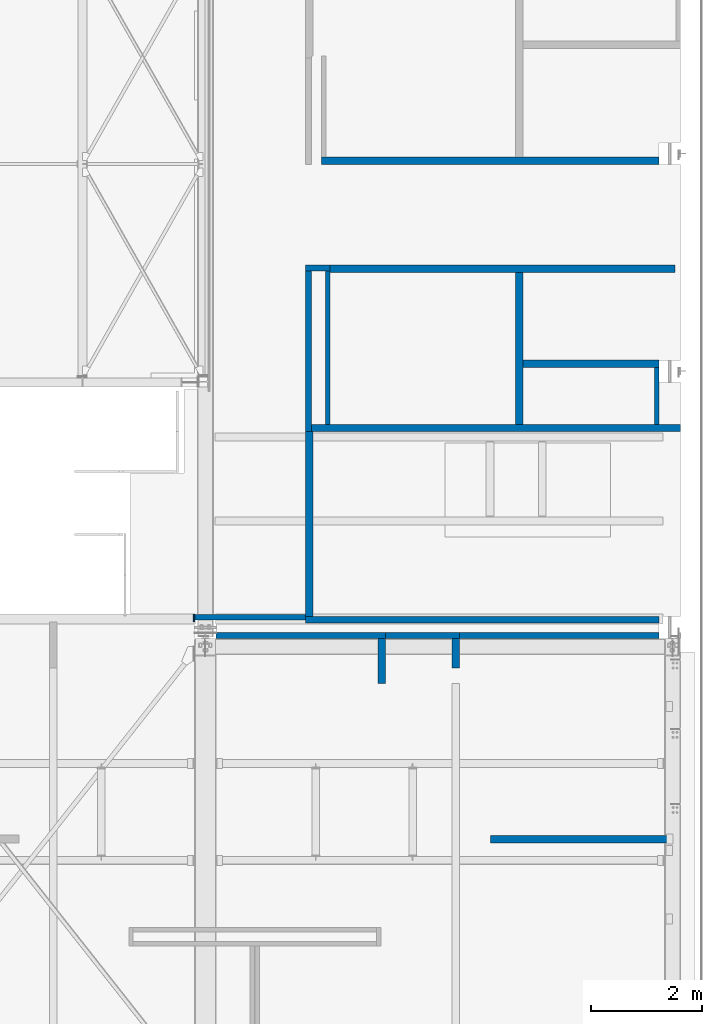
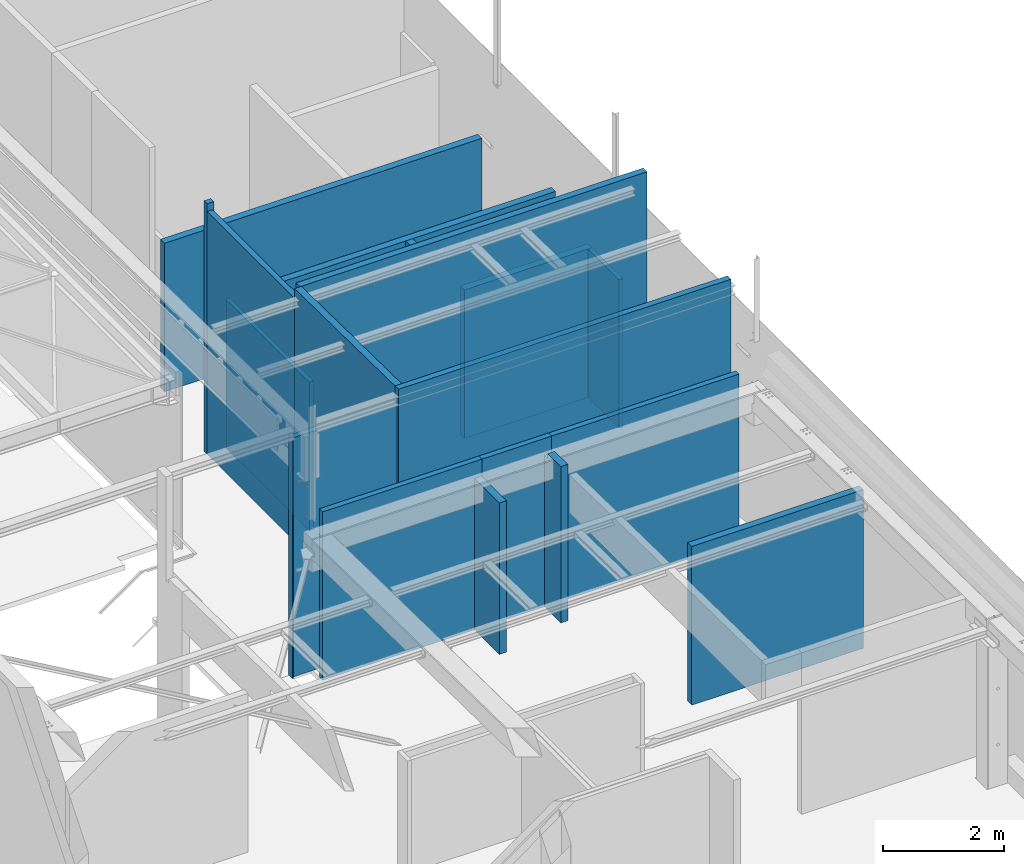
# One storey, part 121 of 186: 19 walls.
"""IFC4X3_ADD2 building model written with IfcOpenShell, lengths in millimetres."""

from ifc_helpers import new_model, si_unit, direction, frame, frame_2d, origin_with_axes, place, context, subcontext, project, spatial, polyline, rectangle, outline, extrude, clip, bounded_halfspace, material, layer, layer_set, type_object, element, save


model = new_model("IFC4X3_ADD2")

# Units and contexts
model_context = context("Model", 3, precision=1e-05, world=origin_with_axes(), true_north=direction((0.0, 1.0)))
body_context = subcontext(model_context, "Body", "Model", "MODEL_VIEW")
ifc_project = project(units=[si_unit("LENGTHUNIT", "METRE", prefix="MILLI"), si_unit("AREAUNIT", "SQUARE_METRE"), si_unit("VOLUMEUNIT", "CUBIC_METRE"), si_unit("PLANEANGLEUNIT", "RADIAN"), si_unit("TIMEUNIT", "SECOND"), si_unit("MASSUNIT", "GRAM")], contexts=[model_context])

# Site, building, storey
site_placement = place(None, origin_with_axes())
site = spatial("IfcSite", under=ifc_project, at=site_placement, Name="Site", CompositionType="ELEMENT")
building_placement = place(site_placement, origin_with_axes())
building = spatial("IfcBuilding", under=site, at=building_placement, Name="IFC Building Story")
storey_placement = place(building_placement, frame((0.0, 0.0, 4370.0), z_axis=(0.0, 0.0, 1.0), x_axis=(1.0, 0.0, 0.0)))
storey = spatial("IfcBuildingStorey", under=building, at=storey_placement, Name="ETAGE 10 (1)", Elevation=4370.0)

# Walls
ifc_material_1 = material(Name="BS_42_Revêtement mural en plaques - type A (gyproc)")
ifc_layer_1 = layer(ifc_material_1, 12.5)
ifc_material_2 = material(Name="BS_42_Panneau OSB")
ifc_layer_2 = layer(ifc_material_2, 18.0)
ifc_material_3 = material(Name="BS_42_ContreCloison-Laine minérale")
ifc_layer_3 = layer(ifc_material_3, 75.0)
ifc_layer_4 = layer(ifc_material_2, 18.0)
ifc_layer_5 = layer(ifc_material_1, 12.5)
ifc_layer_set_1 = layer_set([ifc_layer_1, ifc_layer_2, ifc_layer_3, ifc_layer_4, ifc_layer_5], Name="Mur de base:BS_22_WA_C1")
wall_type_1 = type_object("IfcWallType", Name="Mur de base:BS_22_WA_C1 136", PredefinedType="NOTDEFINED", material=ifc_layer_set_1)
wall_1_placement = place(storey_placement, origin_with_axes())
element("IfcWall", 1, at=wall_1_placement, inside=storey, type_object=wall_type_1, Name="Mur de base:BS_22_WA_C1", ObjectType="Mur de base:BS_22_WA_C1", context=body_context, shape_type="Clipping", body=[
    clip(clip(extrude(outline(polyline([(68.0, 268.7286208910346), (68.0, -268.7286208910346), (-68.0, -268.7286208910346), (-68.0, 268.7286208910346), (68.0, 268.7286208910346)])), frame((44468.2827255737, -268.7286208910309, 0.0), z_axis=(0.0, 0.0, 1.0), x_axis=(1.0, 0.0, 0.0)), (0.0, 0.0, 1.0), 3156.546894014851), bounded_halfspace(frame((0.0, 0.0, 3060.0), z_axis=(0.0, 0.0, 1.0), x_axis=(1.0, 0.0, 0.0)), False, frame((44468.2827255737, -268.7286208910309, 0.0), z_axis=(0.0, 0.0, 1.0), x_axis=(1.0, 0.0, 0.0)), polyline([(68.0, 177.5634774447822), (68.0, 268.7286208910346), (-68.0, 268.7286208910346), (-68.0, 177.5634774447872), (68.0, 177.5634774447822)]))), bounded_halfspace(frame((0.0, 116.7829354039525, 3146.381885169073), z_axis=(0.0, 0.0155352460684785, 0.9998793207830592), x_axis=(1.0, 0.0, 0.0)), False, frame((44468.2827255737, -268.7286208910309, 0.0), z_axis=(0.0, 0.0, 1.0), x_axis=(1.0, 0.0, 0.0)), polyline([(-68.0, 177.5634774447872), (-68.0, -268.7286208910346), (68.0, -268.7286208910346), (68.0, 177.5634774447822), (-68.0, 177.5634774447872)]))),
])
wall_2_placement = place(storey_placement, origin_with_axes())
element("IfcWall", 2, at=wall_2_placement, inside=storey, type_object=wall_type_1, Name="Mur de base:BS_22_WA_C1", ObjectType="Mur de base:BS_22_WA_C1", context=body_context, shape_type="Clipping", body=[
    clip(extrude(outline(polyline([(1639.736002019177, -67.99999999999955), (-1639.736002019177, -67.99999999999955), (-1639.736002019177, 68.0), (1639.736002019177, 68.0), (1639.736002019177, -67.99999999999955)])), frame((46728.95347613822, -3607.54275883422, 0.0), z_axis=(0.0, 0.0, 1.0), x_axis=(1.0, 0.0, 0.0)), (0.0, 0.0, 1.0), 3205.30370864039), bounded_halfspace(frame((0.0, 116.7829354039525, 3146.381885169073), z_axis=(0.0, 0.0155352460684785, 0.9998793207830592), x_axis=(1.0, 0.0, 0.0)), False, frame((46728.95347613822, -3607.54275883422, 0.0), z_axis=(0.0, 0.0, 1.0), x_axis=(1.0, 0.0, 0.0)), polyline([(-1639.736002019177, 68.0), (-1639.736002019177, -67.99999999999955), (1639.736002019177, -67.99999999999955), (1639.736002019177, 68.0), (-1639.736002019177, 68.0)]))),
])
wall_3_placement = place(storey_placement, origin_with_axes())
element("IfcWall", 3, at=wall_3_placement, inside=storey, type_object=wall_type_1, Name="Mur de base:BS_22_WA_C1", ObjectType="Mur de base:BS_22_WA_C1", context=body_context, shape_type="SweptSolid", body=[
    extrude(rectangle(XDim=136.0, YDim=18.81014354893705, at=frame_2d((0.0, 5.95523630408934e-12), x_axis=(0.0, 1.0))), frame((39761.78392822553, 362.000000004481, 0.0), z_axis=(0.0, 0.0, 1.0), x_axis=(1.0, 0.0, 0.0)), (0.0, 0.0, 1.0), 4829.38189005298),
])
ifc_layer_6 = layer(ifc_material_3, 37.5)
ifc_layer_7 = layer(ifc_material_3, 37.5)
ifc_layer_8 = layer(ifc_material_2, 18.0)
ifc_layer_9 = layer(ifc_material_1, 12.5)
ifc_layer_set_2 = layer_set([ifc_layer_6, ifc_layer_7, ifc_layer_8, ifc_layer_9], Name="Mur de base:BS_22_WA_CC3")
wall_type_2 = type_object("IfcWallType", Name="Mur de base:BS_22_WA_CC3 105.5", PredefinedType="NOTDEFINED", material=ifc_layer_set_2)
wall_4_placement = place(storey_placement, origin_with_axes())
element("IfcWall", 4, at=wall_4_placement, inside=storey, type_object=wall_type_2, Name="Mur de base:BS_22_WA_CC3", ObjectType="Mur de base:BS_22_WA_CC3", context=body_context, shape_type="SweptSolid", body=[
    extrude(rectangle(XDim=1995.500478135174, YDim=105.5, at=frame_2d((0.0, 5.95523630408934e-12), x_axis=(1.0, 0.0))), frame((40768.93923906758, 377.2500000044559, 0.0), z_axis=(0.0, 0.0, 1.0), x_axis=(1.0, 0.0, 0.0)), (0.0, 0.0, 1.0), 4829.38189005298),
])
wall_5_placement = place(storey_placement, origin_with_axes())
element("IfcWall", 5, at=wall_5_placement, inside=storey, type_object=wall_type_2, Name="Mur de base:BS_22_WA_CC3", ObjectType="Mur de base:BS_22_WA_CC3", context=body_context, shape_type="Clipping", body=[
    clip(clip(extrude(outline(polyline([(219.3123534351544, -52.75), (-219.3123534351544, -52.75), (-219.3123534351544, 52.75), (219.3123534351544, 52.75), (219.3123534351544, -52.75)])), frame((41986.00183157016, 6657.25000000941, 0.0), z_axis=(0.0, 0.0, 1.0), x_axis=(1.0, 0.0, 0.0)), (0.0, 0.0, 1.0), 5054.056573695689), bounded_halfspace(frame((0.0, 142.8147277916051, 5150.981852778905), z_axis=(0.0, 0.01499831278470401, 0.9998875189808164), x_axis=(1.0, 0.0, 0.0)), False, frame((41986.00183157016, 6657.25000000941, 0.0), z_axis=(0.0, 0.0, 1.0), x_axis=(1.0, 0.0, 0.0)), polyline([(-219.3123534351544, -52.75), (-88.81235343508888, -52.75), (-88.81235343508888, 52.75), (-219.3123534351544, 52.75), (-219.3123534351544, -52.75)]))), bounded_halfspace(frame((0.0, 0.0, 3000.0), z_axis=(0.0, 0.0, 1.0), x_axis=(1.0, 0.0, 0.0)), False, frame((41986.00183157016, 6657.25000000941, 0.0), z_axis=(0.0, 0.0, 1.0), x_axis=(1.0, 0.0, 0.0)), polyline([(219.3123534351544, 52.75), (-88.81235343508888, 52.75), (-88.81235343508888, -52.75), (219.3123534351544, -52.75), (219.3123534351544, 52.75)]))),
])
wall_6_placement = place(storey_placement, origin_with_axes())
element("IfcWall", 6, at=wall_6_placement, inside=storey, type_object=wall_type_2, Name="Mur de base:BS_22_WA_CC3", ObjectType="Mur de base:BS_22_WA_CC3", context=body_context, shape_type="SweptSolid", body=[
    extrude(rectangle(XDim=2892.25000001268, YDim=105.5, at=frame_2d((0.0, 5.95523630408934e-12), x_axis=(0.0, 1.0))), frame((41819.4394781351, 5158.37500000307, 0.0), z_axis=(0.0, 0.0, 1.0), x_axis=(1.0, 0.0, 0.0)), (0.0, 0.0, 1.0), 4900.853678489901),
])
wall_7_placement = place(storey_placement, origin_with_axes())
element("IfcWall", 7, at=wall_7_placement, inside=storey, type_object=wall_type_2, Name="Mur de base:BS_22_WA_CC3", ObjectType="Mur de base:BS_22_WA_CC3", context=body_context, shape_type="SweptSolid", body=[
    extrude(rectangle(XDim=3579.905274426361, YDim=105.5, at=frame_2d((0.0, 5.95523630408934e-12), x_axis=(1.0, 0.0))), frame((46326.23536278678, 52.74999999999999, 0.0), z_axis=(0.0, 0.0, 1.0), x_axis=(1.0, 0.0, 0.0)), (0.0, 0.0, 1.0), 3400.0),
])
wall_8_placement = place(storey_placement, origin_with_axes())
element("IfcWall", 8, at=wall_8_placement, inside=storey, type_object=wall_type_2, Name="Mur de base:BS_22_WA_CC3", ObjectType="Mur de base:BS_22_WA_CC3", context=body_context, shape_type="SweptSolid", body=[
    extrude(rectangle(XDim=1335.450841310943, YDim=105.5, at=frame_2d((0.0, 5.95523630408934e-12), x_axis=(1.0, 0.0))), frame((43868.55730491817, 52.75000000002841, 0.0), z_axis=(0.0, 0.0, 1.0), x_axis=(1.0, 0.0, 0.0)), (0.0, 0.0, 1.0), 3400.0),
])
ifc_layer_10 = layer(ifc_material_3, 50.0)
ifc_layer_11 = layer(ifc_material_2, 18.0)
ifc_material_4 = material(Name="BS_42_Revêtement mural en plaques - type WR (gyproc)")
ifc_layer_12 = layer(ifc_material_4, 12.5)
ifc_layer_set_3 = layer_set([ifc_layer_10, ifc_layer_11, ifc_layer_12], Name="Mur de base:BS_22_WA_CC7")
wall_type_3 = type_object("IfcWallType", Name="Mur de base:BS_22_WA_CC7 80.5", PredefinedType="NOTDEFINED", material=ifc_layer_set_3)
wall_9_placement = place(storey_placement, origin_with_axes())
element("IfcWall", 9, at=wall_9_placement, inside=storey, type_object=wall_type_3, Name="Mur de base:BS_22_WA_CC7", ObjectType="Mur de base:BS_22_WA_CC7", context=body_context, shape_type="SweptSolid", body=[
    extrude(rectangle(XDim=2761.75000001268, YDim=80.50000000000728, at=frame_2d((0.0, 5.95523630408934e-12), x_axis=(0.0, 1.0))), frame((42165.0641850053, 5223.62500000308, 0.0), z_axis=(0.0, 0.0, 1.0), x_axis=(1.0, 0.0, 0.0)), (0.0, 0.0, 1.0), 3000.0),
])
ifc_material_5 = material(Name="BS_42_Revêtement mural en plaques - type Rf (gyproc)")
ifc_layer_13 = layer(ifc_material_5, 12.5)
ifc_layer_14 = layer(ifc_material_5, 12.5)
ifc_layer_15 = layer(ifc_material_3, 37.5)
ifc_layer_16 = layer(ifc_material_3, 37.5)
ifc_layer_17 = layer(ifc_material_2, 18.0)
ifc_layer_18 = layer(ifc_material_1, 12.5)
ifc_layer_set_4 = layer_set([ifc_layer_13, ifc_layer_14, ifc_layer_15, ifc_layer_16, ifc_layer_17, ifc_layer_18], Name="Mur de base:BS_22_WA_C6")
wall_type_4 = type_object("IfcWallType", Name="Mur de base:BS_22_WA_C6 130.5", PredefinedType="NOTDEFINED", material=ifc_layer_set_4)
wall_10_placement = place(storey_placement, origin_with_axes())
element("IfcWall", 10, at=wall_10_placement, inside=storey, type_object=wall_type_4, Name="Mur de base:BS_22_WA_C6", ObjectType="Mur de base:BS_22_WA_C6", context=body_context, shape_type="Clipping", body=[
    clip(extrude(outline(polyline([(65.25, 1661.12499999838), (65.25, -1661.12499999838), (-65.25, -1661.12499999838), (-65.25, 1661.12499999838), (65.25, 1661.12499999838)])), frame((41831.9394781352, 2051.12499999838, 0.0), z_axis=(0.0, 0.0, 1.0), x_axis=(1.0, 0.0, 0.0)), (0.0, 0.0, 1.0), 5147.27407369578), bounded_halfspace(frame((0.0, 142.8147277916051, 5150.981852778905), z_axis=(0.0, 0.01499831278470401, 0.9998875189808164), x_axis=(1.0, 0.0, 0.0)), False, frame((41831.9394781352, 2051.12499999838, 0.0), z_axis=(0.0, 0.0, 1.0), x_axis=(1.0, 0.0, 0.0)), polyline([(65.25, -1661.12499999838), (65.25, 1661.12499999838), (-65.25, 1661.12499999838), (-65.25, -1661.12499999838), (65.25, -1661.12499999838)]))),
])
ifc_layer_19 = layer(ifc_material_5, 12.5)
ifc_layer_20 = layer(ifc_material_5, 12.5)
ifc_layer_21 = layer(ifc_material_3, 37.5)
ifc_layer_22 = layer(ifc_material_3, 37.5)
ifc_layer_23 = layer(ifc_material_2, 18.0)
ifc_layer_24 = layer(ifc_material_4, 12.5)
ifc_layer_set_5 = layer_set([ifc_layer_19, ifc_layer_20, ifc_layer_21, ifc_layer_22, ifc_layer_23, ifc_layer_24], Name="Mur de base:BS_22_WA_C5")
wall_type_5 = type_object("IfcWallType", Name="Mur de base:BS_22_WA_C5 130.5", PredefinedType="NOTDEFINED", material=ifc_layer_set_5)
wall_11_placement = place(storey_placement, origin_with_axes())
element("IfcWall", 11, at=wall_11_placement, inside=storey, type_object=wall_type_5, Name="Mur de base:BS_22_WA_C5", ObjectType="Mur de base:BS_22_WA_C5", context=body_context, shape_type="Clipping", body=[
    clip(extrude(outline(polyline([(-3314.750000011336, -65.25), (-3314.750000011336, 65.25), (3314.750000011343, 65.25), (3314.750000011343, -65.25), (-3314.750000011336, -65.25)])), frame((45186.93947814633, 3777.49999999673, 0.0), z_axis=(0.0, 0.0, 1.0), x_axis=(1.0, 0.0, 0.0)), (0.0, 0.0, 1.0), 5097.440323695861), bounded_halfspace(frame((0.0, 142.8147277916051, 5150.981852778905), z_axis=(0.0, 0.01499831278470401, 0.9998875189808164), x_axis=(1.0, 0.0, 0.0)), False, frame((45186.93947814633, 3777.49999999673, 0.0), z_axis=(0.0, 0.0, 1.0), x_axis=(1.0, 0.0, 0.0)), polyline([(3314.750000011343, 65.25), (-3314.750000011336, 65.25), (-3314.750000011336, -65.25), (3314.750000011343, -65.25), (3314.750000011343, 65.25)]))),
])
ifc_layer_25 = layer(ifc_material_4, 12.5)
ifc_layer_26 = layer(ifc_material_2, 18.0)
ifc_layer_27 = layer(ifc_material_3, 37.5)
ifc_layer_28 = layer(ifc_material_3, 37.5)
ifc_layer_29 = layer(ifc_material_2, 18.0)
ifc_layer_30 = layer(ifc_material_4, 12.5)
ifc_layer_set_6 = layer_set([ifc_layer_25, ifc_layer_26, ifc_layer_27, ifc_layer_28, ifc_layer_29, ifc_layer_30], Name="Mur de base:BS_22_WA_C3")
wall_type_6 = type_object("IfcWallType", Name="Mur de base:BS_22_WA_C3 136", PredefinedType="NOTDEFINED", material=ifc_layer_set_6)
wall_12_placement = place(storey_placement, origin_with_axes())
element("IfcWall", 12, at=wall_12_placement, inside=storey, type_object=wall_type_6, Name="Mur de base:BS_22_WA_C3", ObjectType="Mur de base:BS_22_WA_C3", context=body_context, shape_type="SweptSolid", body=[
    extrude(rectangle(XDim=2438.999158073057, YDim=136.0, at=frame_2d((0.0, 5.95523630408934e-12), x_axis=(1.0, 0.0))), frame((46896.68905719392, 4932.50000001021, 0.0), z_axis=(0.0, 0.0, 1.0), x_axis=(1.0, 0.0, 0.0)), (0.0, 0.0, 1.0), 3000.0),
])
wall_13_placement = place(storey_placement, origin_with_axes())
element("IfcWall", 13, at=wall_13_placement, inside=storey, type_object=wall_type_6, Name="Mur de base:BS_22_WA_C3", ObjectType="Mur de base:BS_22_WA_C3", context=body_context, shape_type="SweptSolid", body=[
    extrude(rectangle(XDim=816.132832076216, YDim=136.0000000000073, at=frame_2d((0.0, 5.95523630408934e-12), x_axis=(0.0, 1.0))), frame((43132.8318842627, -408.0664160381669, 0.0), z_axis=(0.0, 0.0, 1.0), x_axis=(1.0, 0.0, 0.0)), (0.0, 0.0, 1.0), 3060.0),
])
wall_14_placement = place(storey_placement, origin_with_axes())
element("IfcWall", 14, at=wall_14_placement, inside=storey, type_object=wall_type_6, Name="Mur de base:BS_22_WA_C3", ObjectType="Mur de base:BS_22_WA_C3", context=body_context, shape_type="SweptSolid", body=[
    extrude(rectangle(XDim=2731.75000001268, YDim=136.0000000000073, at=frame_2d((0.0, 5.95523630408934e-12), x_axis=(0.0, 1.0))), frame((45609.18947815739, 5208.6250000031, 0.0), z_axis=(0.0, 0.0, 1.0), x_axis=(1.0, 0.0, 0.0)), (0.0, 0.0, 1.0), 3000.0),
])
ifc_layer_31 = layer(ifc_material_4, 12.5)
ifc_layer_32 = layer(ifc_material_2, 18.0)
ifc_layer_33 = layer(ifc_material_3, 37.5)
ifc_layer_34 = layer(ifc_material_3, 37.5)
ifc_layer_35 = layer(ifc_material_2, 18.0)
ifc_layer_36 = layer(ifc_material_1, 12.5)
ifc_layer_set_7 = layer_set([ifc_layer_31, ifc_layer_32, ifc_layer_33, ifc_layer_34, ifc_layer_35, ifc_layer_36], Name="Mur de base:BS_22_WA_C2")
wall_type_7 = type_object("IfcWallType", Name="Mur de base:BS_22_WA_C2 136", PredefinedType="NOTDEFINED", material=ifc_layer_set_7)
wall_15_placement = place(storey_placement, origin_with_axes())
element("IfcWall", 15, at=wall_15_placement, inside=storey, type_object=wall_type_7, Name="Mur de base:BS_22_WA_C2", ObjectType="Mur de base:BS_22_WA_C2", context=body_context, shape_type="SweptSolid", body=[
    extrude(rectangle(XDim=6059.499158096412, YDim=136.0, at=frame_2d((0.0, 5.95523630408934e-12), x_axis=(1.0, 0.0))), frame((45086.4390571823, 8578.000000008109, 0.0), z_axis=(0.0, 0.0, 1.0), x_axis=(1.0, 0.0, 0.0)), (0.0, 0.0, 1.0), 3000.0),
])
wall_16_placement = place(storey_placement, origin_with_axes())
element("IfcWall", 16, at=wall_16_placement, inside=storey, type_object=wall_type_7, Name="Mur de base:BS_22_WA_C2", ObjectType="Mur de base:BS_22_WA_C2", context=body_context, shape_type="SweptSolid", body=[
    extrude(rectangle(XDim=6201.375293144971, YDim=136.0, at=frame_2d((0.0, 5.95523630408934e-12), x_axis=(1.0, 0.0))), frame((45306.00183157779, 6642.50000000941, 0.0), z_axis=(0.0, 0.0, 1.0), x_axis=(1.0, 0.0, 0.0)), (0.0, 0.0, 1.0), 3000.0),
])
ifc_layer_37 = layer(ifc_material_3, 37.5)
ifc_layer_38 = layer(ifc_material_3, 37.5)
ifc_layer_39 = layer(ifc_material_2, 18.0)
ifc_layer_40 = layer(ifc_material_4, 12.5)
ifc_layer_set_8 = layer_set([ifc_layer_37, ifc_layer_38, ifc_layer_39, ifc_layer_40], Name="Mur de base:BS_22_WA_CC8")
wall_type_8 = type_object("IfcWallType", Name="Mur de base:BS_22_WA_CC8 105.5", PredefinedType="NOTDEFINED", material=ifc_layer_set_8)
wall_17_placement = place(storey_placement, origin_with_axes())
element("IfcWall", 17, at=wall_17_placement, inside=storey, type_object=wall_type_8, Name="Mur de base:BS_22_WA_CC8", ObjectType="Mur de base:BS_22_WA_CC8", context=body_context, shape_type="SweptSolid", body=[
    extrude(rectangle(XDim=3039.142406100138, YDim=105.5, at=frame_2d((0.0, 5.95523630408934e-12), x_axis=(1.0, 0.0))), frame((41681.26068121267, 52.74999999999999, 0.0), z_axis=(0.0, 0.0, 1.0), x_axis=(1.0, 0.0, 0.0)), (0.0, 0.0, 1.0), 3400.0),
])
ifc_layer_41 = layer(ifc_material_3, 37.5)
ifc_layer_42 = layer(ifc_material_3, 37.5)
ifc_layer_43 = layer(ifc_material_2, 18.0)
ifc_layer_44 = layer(ifc_material_5, 12.5)
ifc_layer_45 = layer(ifc_material_5, 12.5)
ifc_layer_set_9 = layer_set([ifc_layer_41, ifc_layer_42, ifc_layer_43, ifc_layer_44, ifc_layer_45], Name="Mur de base:BS_22_WA_CC6")
wall_type_9 = type_object("IfcWallType", Name="Mur de base:BS_22_WA_CC6 118", PredefinedType="NOTDEFINED", material=ifc_layer_set_9)
wall_18_placement = place(storey_placement, origin_with_axes())
element("IfcWall", 18, at=wall_18_placement, inside=storey, type_object=wall_type_9, Name="Mur de base:BS_22_WA_CC6", ObjectType="Mur de base:BS_22_WA_CC6", context=body_context, shape_type="Clipping", body=[
    clip(extrude(outline(polyline([(-3174.749260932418, -59.0), (-3174.749260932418, 59.0), (3174.749260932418, 59.0), (3174.749260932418, -59.0), (-3174.749260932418, -59.0)])), frame((44941.43873906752, 330.999999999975, 0.0), z_axis=(0.0, 0.0, 1.0), x_axis=(1.0, 0.0, 0.0)), (0.0, 0.0, 1.0), 5149.044073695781), bounded_halfspace(frame((0.0, 142.8147277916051, 5150.981852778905), z_axis=(0.0, 0.01499831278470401, 0.9998875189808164), x_axis=(1.0, 0.0, 0.0)), False, frame((44941.43873906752, 330.999999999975, 0.0), z_axis=(0.0, 0.0, 1.0), x_axis=(1.0, 0.0, 0.0)), polyline([(3174.749260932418, 59.0), (-3174.749260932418, 59.0), (-3174.749260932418, -59.0), (3174.749260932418, -59.0), (3174.749260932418, 59.0)]))),
])
ifc_layer_46 = layer(ifc_material_3, 22.5)
ifc_layer_47 = layer(ifc_material_3, 22.5)
ifc_layer_48 = layer(ifc_material_2, 18.0)
ifc_material_6 = material(Name="BS_42_Revêtement mural en plaque fibrociment")
ifc_layer_49 = layer(ifc_material_6, 12.0)
ifc_layer_set_10 = layer_set([ifc_layer_46, ifc_layer_47, ifc_layer_48, ifc_layer_49], Name="Mur de base:BS_22_WA_CC9")
wall_type_10 = type_object("IfcWallType", Name="Mur de base:BS_22_WA_CC9 75", PredefinedType="NOTDEFINED", material=ifc_layer_set_10)
wall_19_placement = place(storey_placement, origin_with_axes())
element("IfcWall", 19, at=wall_19_placement, inside=storey, type_object=wall_type_10, Name="Mur de base:BS_22_WA_CC9", ObjectType="Mur de base:BS_22_WA_CC9", context=body_context, shape_type="SweptSolid", body=[
    extrude(rectangle(XDim=1021.75000001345, YDim=75.0, at=frame_2d((0.0, 5.95523630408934e-12), x_axis=(0.0, 1.0))), frame((48078.6886362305, 4353.625000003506, 0.0), z_axis=(0.0, 0.0, 1.0), x_axis=(1.0, 0.0, 0.0)), (0.0, 0.0, 1.0), 3000.0),
])

save(model, "model.ifc")
